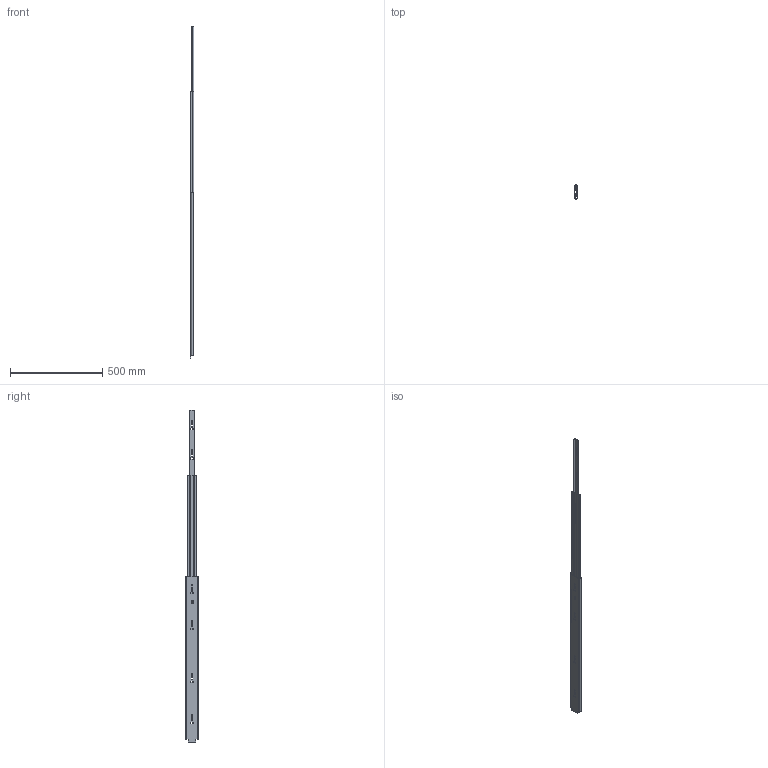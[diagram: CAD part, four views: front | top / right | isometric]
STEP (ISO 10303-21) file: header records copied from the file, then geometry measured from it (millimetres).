
FILE_DESCRIPTION (( 'STEP AP214' ), '1' );
FILE_NAME ('DSCHHD900MM-OPEN.STEP', '2018-11-29T11:54:23', ( '' ), ( '' ), 'SwSTEP 2.0', 'SolidWorks 2017', '' );
FILE_SCHEMA (( 'AUTOMOTIVE_DESIGN' ));
Length unit declared in the file: millimetre
Products named in the file (4): DSCHHD-3_900; DSCHHD900MM-OPEN; DSCHHD-2_900; DSCHHD-1_900
Assembly tree (3 placements, depth 2):
  DSCHHD900MM-OPEN
    DSCHHD-3_900
    DSCHHD-2_900
    DSCHHD-1_900
Bounding box: 19.4 x 75.28 x 1800 mm (x, y, z)
Volume: 459090.8 mm3; surface area: 472718.4 mm2
Topology: 3 solids, 3 shells, 824 faces, 2256 edges, 1504 vertices
Faces by surface type: plane 467, bspline 237, cylinder 120
Entity records: 27832 total; most frequent: CARTESIAN_POINT 8019, ORIENTED_EDGE 4512, DIRECTION 3208, EDGE_CURVE 2256, VECTOR 1542, LINE 1542, VERTEX_POINT 1504, EDGE_LOOP 954
